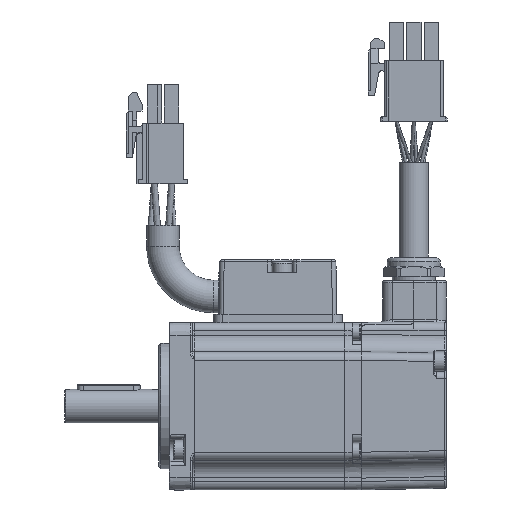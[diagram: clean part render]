
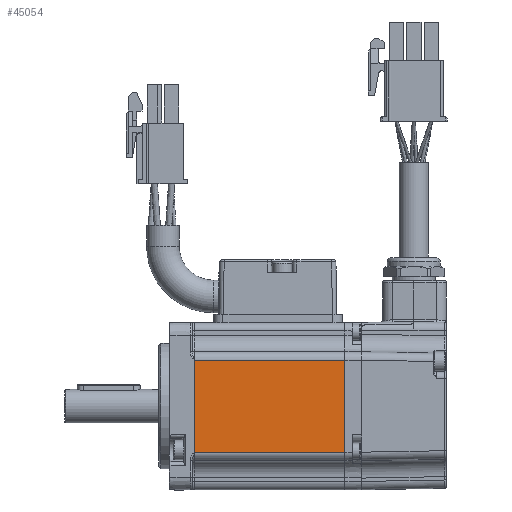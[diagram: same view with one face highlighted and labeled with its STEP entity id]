
A CAD part, left-side view. The second image highlights one B-rep face of the part: STEP entity #45054.
In plain terms, the highlighted planar face has unit normal (-1, 0, 0) as drawn and (0, 1, 0) by its records, which use the part's own axes.
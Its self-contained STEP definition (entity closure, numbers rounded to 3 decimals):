
#3430=PLANE('',#58714);
#16553=ORIENTED_EDGE('',*,*,#23019,.T.);
#16554=ORIENTED_EDGE('',*,*,#23020,.T.);
#16555=ORIENTED_EDGE('',*,*,#23021,.T.);
#16556=ORIENTED_EDGE('',*,*,#23022,.T.);
#23019=EDGE_CURVE('',#27244,#27245,#31390,.F.);
#23020=EDGE_CURVE('',#27245,#27246,#31391,.T.);
#23021=EDGE_CURVE('',#27246,#27247,#31392,.T.);
#23022=EDGE_CURVE('',#27247,#27244,#31393,.T.);
#27244=VERTEX_POINT('',#94465);
#27245=VERTEX_POINT('',#94466);
#27246=VERTEX_POINT('',#94468);
#27247=VERTEX_POINT('',#94470);
#31390=LINE('',#94464,#35475);
#31391=LINE('',#94467,#35476);
#31392=LINE('',#94469,#35477);
#31393=LINE('',#94471,#35478);
#35475=VECTOR('',#69570,1000.);
#35476=VECTOR('',#69571,1000.);
#35477=VECTOR('',#69572,1000.);
#35478=VECTOR('',#69573,1000.);
#38627=EDGE_LOOP('',(#16553,#16554,#16555,#16556));
#41889=FACE_BOUND('',#38627,.T.);
#45054=ADVANCED_FACE('',(#41889),#3430,.T.);
#58714=AXIS2_PLACEMENT_3D('',#94463,#69568,#69569);
#69568=DIRECTION('',(0.,1.,0.));
#69569=DIRECTION('',(0.,0.,1.));
#69570=DIRECTION('',(-1.,0.,0.));
#69571=DIRECTION('',(0.,0.,-1.));
#69572=DIRECTION('',(-1.,0.,0.));
#69573=DIRECTION('',(0.,0.,1.));
#94463=CARTESIAN_POINT('',(-200.,20.,-20.));
#94464=CARTESIAN_POINT('',(0.,20.,11.));
#94465=CARTESIAN_POINT('',(-37.,20.,11.));
#94466=CARTESIAN_POINT('',(-1.,20.,11.));
#94467=CARTESIAN_POINT('',(-1.,20.,-20.));
#94468=CARTESIAN_POINT('',(-1.,20.,-11.));
#94469=CARTESIAN_POINT('',(-200.,20.,-11.));
#94470=CARTESIAN_POINT('',(-37.,20.,-11.));
#94471=CARTESIAN_POINT('',(-37.,20.,-20.));
